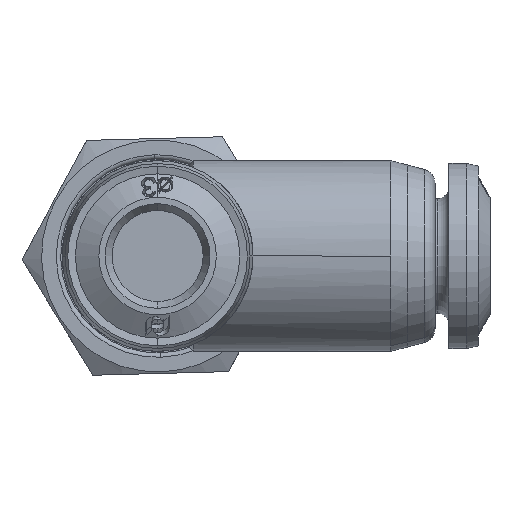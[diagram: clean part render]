
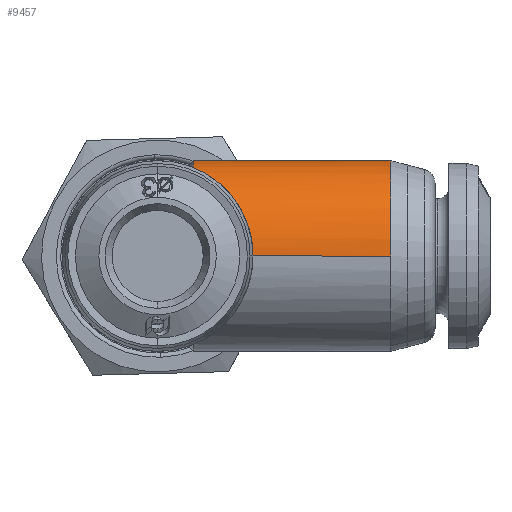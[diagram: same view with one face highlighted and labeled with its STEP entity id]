
A CAD part, left-side view. The second image highlights one B-rep face of the part: STEP entity #9457.
In plain terms, the highlighted cylindrical face has radius 3.25 mm (diameter 6.5 mm), a partial arc.
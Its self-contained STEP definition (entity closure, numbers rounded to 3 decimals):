
#266 = EDGE_LOOP ( 'NONE', ( #2244, #2245, #2246, #2247, #2248, #2249, #2250, #2251 ) ) ;
#590 = AXIS2_PLACEMENT_3D ( 'NONE', #8856, #8857, #8865 ) ;
#2244 = ORIENTED_EDGE ( 'NONE', *, *, #6020, .T. ) ;
#2245 = ORIENTED_EDGE ( 'NONE', *, *, #6021, .T. ) ;
#2246 = ORIENTED_EDGE ( 'NONE', *, *, #6022, .F. ) ;
#2247 = ORIENTED_EDGE ( 'NONE', *, *, #6023, .T. ) ;
#2248 = ORIENTED_EDGE ( 'NONE', *, *, #6024, .T. ) ;
#2249 = ORIENTED_EDGE ( 'NONE', *, *, #6025, .F. ) ;
#2250 = ORIENTED_EDGE ( 'NONE', *, *, #6026, .F. ) ;
#2251 = ORIENTED_EDGE ( 'NONE', *, *, #6027, .T. ) ;
#3820 = FACE_OUTER_BOUND ( 'NONE', #266, .T. ) ;
#3828 = CYLINDRICAL_SURFACE ( 'NONE', #590, 3.25 ) ;
#4189 = VERTEX_POINT ( 'NONE', #10836 ) ;
#4198 = VERTEX_POINT ( 'NONE', #10845 ) ;
#4199 = VERTEX_POINT ( 'NONE', #10846 ) ;
#4202 = VERTEX_POINT ( 'NONE', #10849 ) ;
#4203 = VERTEX_POINT ( 'NONE', #10850 ) ;
#4204 = VERTEX_POINT ( 'NONE', #10851 ) ;
#4205 = VERTEX_POINT ( 'NONE', #10852 ) ;
#6020 = EDGE_CURVE ( 'NONE', #4199, #4198, #11655, .T. ) ;
#6021 = EDGE_CURVE ( 'NONE', #4198, #4203, #11647, .T. ) ;
#6022 = EDGE_CURVE ( 'NONE', #14123, #4203, #11175, .T. ) ;
#6023 = EDGE_CURVE ( 'NONE', #14123, #4204, #11665, .T. ) ;
#6024 = EDGE_CURVE ( 'NONE', #4204, #4205, #11667, .T. ) ;
#6025 = EDGE_CURVE ( 'NONE', #4189, #4205, #11177, .T. ) ;
#6026 = EDGE_CURVE ( 'NONE', #4202, #4189, #11661, .T. ) ;
#6027 = EDGE_CURVE ( 'NONE', #4202, #4199, #11671, .T. ) ;
#7110 = DIRECTION ( 'NONE',  ( 0., 1., 0. ) ) ;
#7114 = CARTESIAN_POINT ( 'NONE',  ( 2.486, -2.486, 2.5 ) ) ;
#7115 = CARTESIAN_POINT ( 'NONE',  ( 1.22, -1.22, 3.013 ) ) ;
#7116 = CARTESIAN_POINT ( 'NONE',  ( 3.25, 0., 0. ) ) ;
#7117 = CARTESIAN_POINT ( 'NONE',  ( 0., -7.94, 0. ) ) ;
#7118 = DIRECTION ( 'NONE',  ( 0., 1., 0. ) ) ;
#7119 = DIRECTION ( 'NONE',  ( -1., 0., 0. ) ) ;
#7120 = CARTESIAN_POINT ( 'NONE',  ( 3.25, -3.25, 1.367 ) ) ;
#7121 = CARTESIAN_POINT ( 'NONE',  ( 3.25, -3.25, 0. ) ) ;
#7123 = CARTESIAN_POINT ( 'NONE',  ( 0., -1.22, 0. ) ) ;
#7124 = DIRECTION ( 'NONE',  ( 0., -1., 0. ) ) ;
#7125 = DIRECTION ( 'NONE',  ( 0., 0., -1. ) ) ;
#7126 = CARTESIAN_POINT ( 'NONE',  ( -3.25, -3.25, 0. ) ) ;
#7127 = CARTESIAN_POINT ( 'NONE',  ( -3.25, -3.25, 1.367 ) ) ;
#7128 = CARTESIAN_POINT ( 'NONE',  ( 0., -1.22, 0. ) ) ;
#7129 = DIRECTION ( 'NONE',  ( 0., -1., 0. ) ) ;
#7130 = DIRECTION ( 'NONE',  ( 0., 0., -1. ) ) ;
#7131 = CARTESIAN_POINT ( 'NONE',  ( -3.25, 0., 0. ) ) ;
#7132 = CARTESIAN_POINT ( 'NONE',  ( -2.486, -2.486, 2.5 ) ) ;
#7133 = CARTESIAN_POINT ( 'NONE',  ( -1.22, -1.22, 3.013 ) ) ;
#7134 = DIRECTION ( 'NONE',  ( 0., 1., 0. ) ) ;
#7136 = CARTESIAN_POINT ( 'NONE',  ( 0., -7.94, 0. ) ) ;
#7137 = DIRECTION ( 'NONE',  ( 0., 1., 0. ) ) ;
#7138 = DIRECTION ( 'NONE',  ( -1., 0., 0. ) ) ;
#7657 = CARTESIAN_POINT ( 'NONE',  ( 1.22, -1.22, 3.013 ) ) ;
#8856 = CARTESIAN_POINT ( 'NONE',  ( 0., 0., 0. ) ) ;
#8857 = DIRECTION ( 'NONE',  ( 0., 1., 0. ) ) ;
#8865 = DIRECTION ( 'NONE',  ( -1., 0., 0. ) ) ;
#9457 = ADVANCED_FACE ( 'NONE', ( #3820 ), #3828, .T. ) ;
#10836 = CARTESIAN_POINT ( 'NONE',  ( -3.25, -3.25, 0. ) ) ;
#10845 = CARTESIAN_POINT ( 'NONE',  ( 3.25, -7.94, 0. ) ) ;
#10846 = CARTESIAN_POINT ( 'NONE',  ( 1.084, -7.94, 3.064 ) ) ;
#10849 = CARTESIAN_POINT ( 'NONE',  ( -3.25, -7.94, 0. ) ) ;
#10850 = CARTESIAN_POINT ( 'NONE',  ( 3.25, -3.25, 0. ) ) ;
#10851 = CARTESIAN_POINT ( 'NONE',  ( 0., -1.22, 3.25 ) ) ;
#10852 = CARTESIAN_POINT ( 'NONE',  ( -1.22, -1.22, 3.013 ) ) ;
#11175 =( BOUNDED_CURVE ( )  B_SPLINE_CURVE ( 3, ( #7115, #7114, #7120, #7121 ),
 .UNSPECIFIED., .F., .T. ) 
 B_SPLINE_CURVE_WITH_KNOTS ( ( 4, 4 ),
 ( 5.097, 6.283 ),
 .UNSPECIFIED. ) 
 CURVE ( )  GEOMETRIC_REPRESENTATION_ITEM ( )  RATIONAL_B_SPLINE_CURVE ( ( 1., 0.886, 0.886, 1. ) ) 
 REPRESENTATION_ITEM ( '' )  );
#11177 =( BOUNDED_CURVE ( )  B_SPLINE_CURVE ( 3, ( #7126, #7127, #7132, #7133 ),
 .UNSPECIFIED., .F., .T. ) 
 B_SPLINE_CURVE_WITH_KNOTS ( ( 4, 4 ),
 ( 3.142, 4.328 ),
 .UNSPECIFIED. ) 
 CURVE ( )  GEOMETRIC_REPRESENTATION_ITEM ( )  RATIONAL_B_SPLINE_CURVE ( ( 1., 0.886, 0.886, 1. ) ) 
 REPRESENTATION_ITEM ( '' )  );
#11647 = LINE ( 'NONE', #7116, #11663 ) ;
#11655 = CIRCLE ( 'NONE', #13881, 3.25 ) ;
#11661 = LINE ( 'NONE', #7131, #11674 ) ;
#11663 = VECTOR ( 'NONE', #7110, 1000. ) ;
#11665 = CIRCLE ( 'NONE', #13883, 3.25 ) ;
#11667 = CIRCLE ( 'NONE', #13888, 3.25 ) ;
#11671 = CIRCLE ( 'NONE', #13890, 3.25 ) ;
#11674 = VECTOR ( 'NONE', #7134, 1000. ) ;
#13881 = AXIS2_PLACEMENT_3D ( 'NONE', #7117, #7118, #7119 ) ;
#13883 = AXIS2_PLACEMENT_3D ( 'NONE', #7123, #7124, #7125 ) ;
#13888 = AXIS2_PLACEMENT_3D ( 'NONE', #7128, #7129, #7130 ) ;
#13890 = AXIS2_PLACEMENT_3D ( 'NONE', #7136, #7137, #7138 ) ;
#14123 = VERTEX_POINT ( 'NONE', #7657 ) ;
